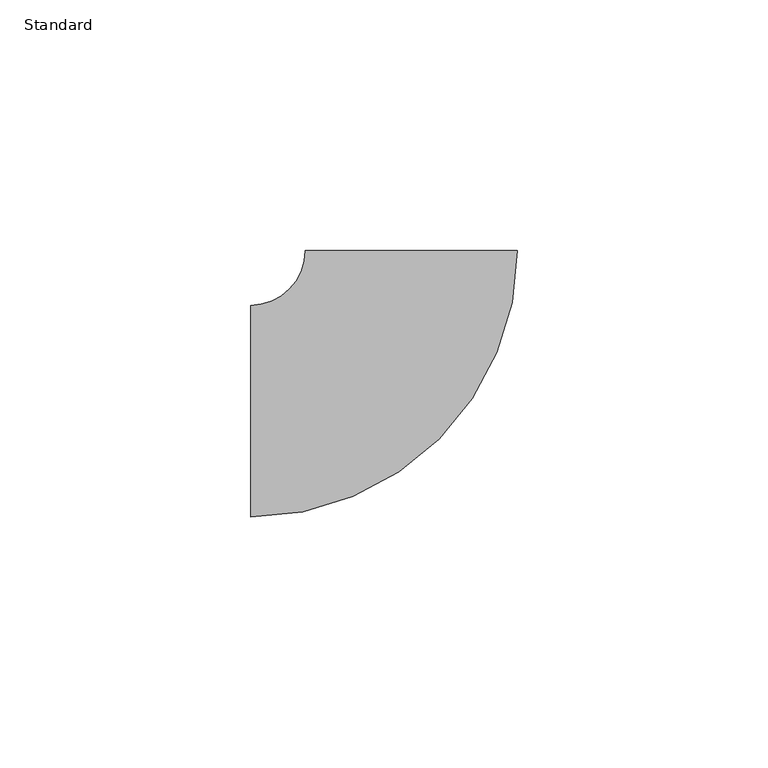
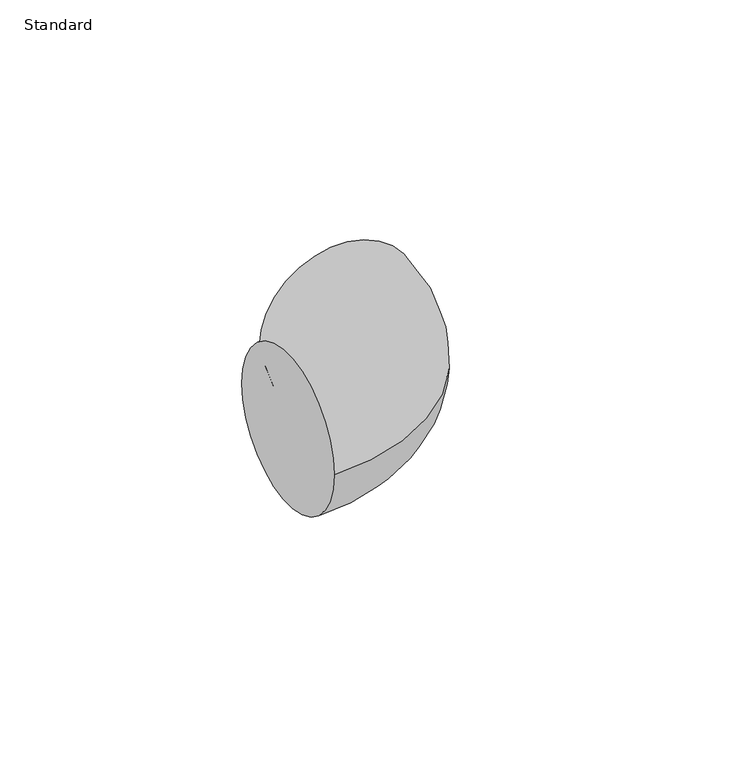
"""IFC4 building model written with IfcOpenShell, lengths in millimetres: pipe fitting geometry, Coude - Générique1 : Standard."""

from ifc_helpers import new_model, si_unit, point, frame, origin, place, context, project, spatial, circle_curve, ellipse_curve, trimmed, source, transform, mapped, element, save
from ifc_brep_helpers import plane_surface, revolved_surface, advanced_brep


def standard_fa75ec68(model_context):
    return source(origin(), model_context, "Body", "AdvancedBrep", [
        advanced_brep(
        [(-32.0, -21.1, 0.0), (-32.0, 21.1, 0.0), (21.1031996, 31.9978901, 0.0), (-21.0968002, 32.0021096, 0.0)],
        [
            (0, 1, circle_curve(frame((-32.0, 0.0, 0.0), z_axis=(-1.0, 0.0, 0.0), x_axis=(0.0, 1.0, 0.0)), 21.1)),
            (1, 0, circle_curve(frame((-32.0, 0.0, 0.0), z_axis=(-1.0, 0.0, 0.0), x_axis=(0.0, 1.0, 0.0)), 21.1)),
            (2, 3, circle_curve(frame((0.0031997, 31.9999998, 0.0), z_axis=(9.999000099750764e-05, 0.9999999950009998, 0.0), x_axis=(-0.9999999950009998, 9.999000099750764e-05, 0.0)), 21.1)),
            (3, 2, circle_curve(frame((0.0031997, 31.9999998, 0.0), z_axis=(9.999000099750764e-05, 0.9999999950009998, 0.0), x_axis=(-0.9999999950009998, 9.999000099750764e-05, 0.0)), 21.1)),
            (3, 1, circle_curve(frame((-32.0, 32.0031998, 0.0), z_axis=(0.0, 0.0, -1.0), x_axis=(0.0, -1.0, 0.0)), 10.9031998)),
            (0, 2, circle_curve(frame((-32.0, 32.0031998, 0.0), z_axis=(0.0, 0.0, 1.0), x_axis=(0.0, -1.0, 0.0)), 53.1031998)),
        ],
        [
            plane_surface(frame((-32.0, 0.0, 0.0), z_axis=(-1.0, 0.0, 0.0), x_axis=(0.0, 0.0, 1.0))),
            plane_surface(frame((0.0031997, 31.9999998, 0.0), z_axis=(9.999000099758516e-05, 0.9999999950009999, 0.0), x_axis=(0.0, 0.0, 1.0))),
            revolved_surface(trimmed(ellipse_curve(frame((-32.0, 0.0, 0.0), z_axis=(-1.0, 0.0, 0.0), x_axis=(0.0, 1.0, 0.0)), 21.1, 21.1), [point((-32.0, -21.1, 0.0))], [point((-32.0, 21.1, 0.0))], True, "CARTESIAN"), (-32.0, 32.0031998, 0.0), (0.0, 0.0, 1.0)),
            revolved_surface(trimmed(ellipse_curve(frame((-32.0, 0.0, 0.0), z_axis=(-1.0, 0.0, 0.0), x_axis=(0.0, 1.0, 0.0)), 21.1, 21.1), [point((-32.0, 21.1, 0.0))], [point((-32.0, -21.1, 0.0))], True, "CARTESIAN"), (-32.0, 32.0031998, 0.0), (0.0, 0.0, 1.0)),
        ],
        [
            (0, [[1, 2]]),
            (1, [[3, 4]]),
            (2, [[5, -1, 6, -4]]),
            (3, [[-6, -2, -5, -3]]),
        ],
    ),
    ])


if __name__ == "__main__":
    model = new_model("IFC4")
    model_context = context("Model", 3, world=origin())
    ifc_project = project(units=[si_unit("LENGTHUNIT", "METRE", prefix="MILLI")], contexts=[model_context])
    site = spatial("IfcSite", under=ifc_project)
    building = spatial("IfcBuilding", under=site)
    placement = place(None, origin())
    standard_shape = standard_fa75ec68(model_context)
    element("IfcPipeFitting", 1, ObjectType="Coude - Générique1 : Standard", at=placement, inside=building, context=model_context, shape_type="MappedRepresentation", body=[
        mapped(standard_shape, transform((0.0, 0.0, 0.0), x_axis=(1.0, 0.0, 0.0), y_axis=(0.0, 1.0, 0.0), z_axis=(0.0, 0.0, 1.0))),
    ])
    save(model, "model.ifc")
